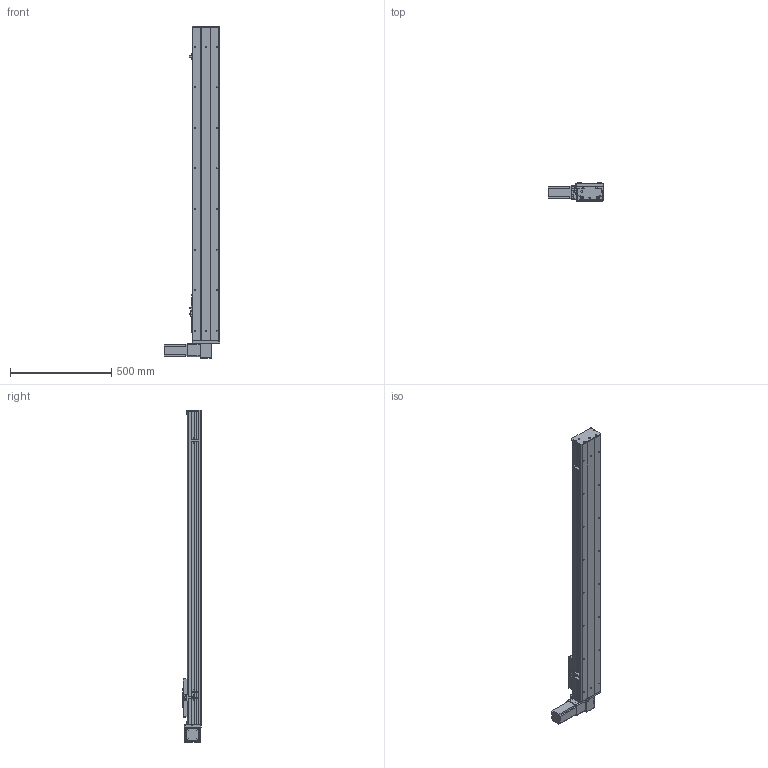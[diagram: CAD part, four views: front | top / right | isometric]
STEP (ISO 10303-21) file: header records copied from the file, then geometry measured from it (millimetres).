
FILE_DESCRIPTION (( 'STEP AP203' ), '1' );
FILE_NAME ('Y135CB-D90-S1250-BD-P400W.STEP', '2020-02-19T03:36:25', ( '微软用户' ), ( '微软中国' ), 'SwSTEP 2.0', 'SolidWorks 2017', '' );
FILE_SCHEMA (( 'CONFIG_CONTROL_DESIGN' ));
Length unit declared in the file: millimetre
Products named in the file (16): 5C--俋欶; 35CB---喘謫眊楊擘啣; C-雄赽釱--; 0B-埴倛裔啣; Y10B--々湍喘謫眊--666; 0B-源倛裔啣; 0B-薊粣ん眊; san松下电机400不带刹车----; Y135CB-D90-S1250-BD-P400W; 5CB --掛极耜裔啣-; C-詩湍揤踡え-陔; 135CB--詩湍-CE; Y100-135俋离換覜ん--; Y135CB-耜裔; Y135C-陔俋离換覜結え-; 135CB---遴掛极.-
Assembly tree (19 placements, depth 2):
  Y135CB-D90-S1250-BD-P400W
    Y135CB-耜裔
    135CB---遴掛极.-
    35CB---喘謫眊楊擘啣
    0B-埴倛裔啣
    0B-源倛裔啣
    san松下电机400不带刹车----
    5CB --掛极耜裔啣-  x2
    C-詩湍揤踡え-陔  x2
    135CB--詩湍-CE
    Y100-135俋离換覜ん--  x3
    Y135C-陔俋离換覜結え-
    5C--俋欶
    C-雄赽釱--
    Y10B--々湍喘謫眊--666
    0B-薊粣ん眊
Bounding box: 272 x 91 x 1638 mm (x, y, z)
Volume: 5036077.1 mm3; surface area: 1933102.1 mm2
Topology: 19 solids, 19 shells, 859 faces, 2284 edges, 1512 vertices
Faces by surface type: cylinder 428, plane 415, cone 16
Entity records: 26208 total; most frequent: DIRECTION 4368, CARTESIAN_POINT 4291, ORIENTED_EDGE 4044, EDGE_CURVE 2022, AXIS2_PLACEMENT_3D 1601, VERTEX_POINT 1340, VECTOR 1166, LINE 1166
